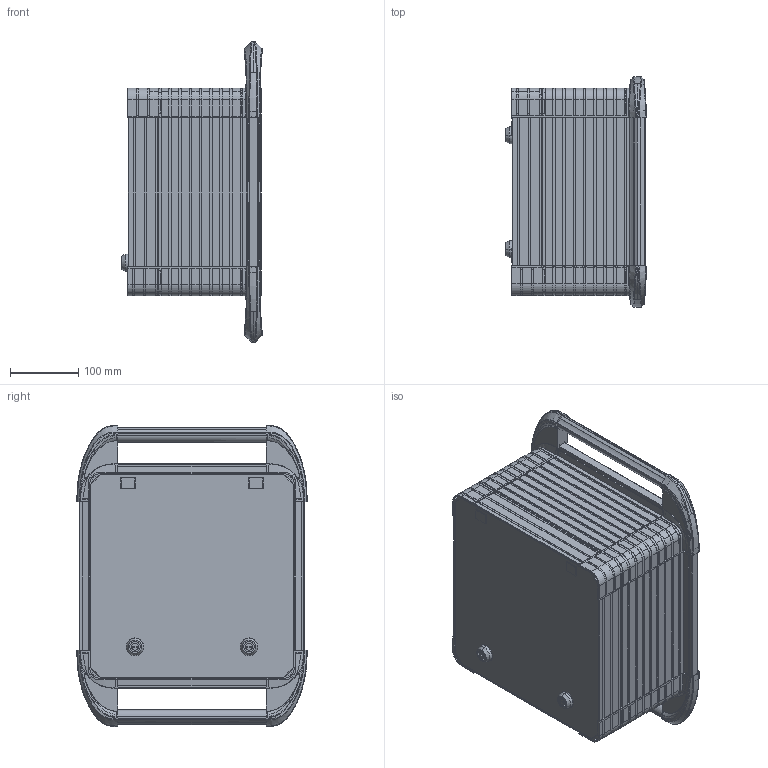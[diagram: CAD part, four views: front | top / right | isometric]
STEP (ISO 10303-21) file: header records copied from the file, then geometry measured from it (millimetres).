
FILE_DESCRIPTION (( 'STEP AP214' ), '1' );
FILE_NAME ('KL-1-180-230-230.step', '2019-11-14T05:20:55', ( 'IT Division' ), ( 'IT' ), 'SwSTEP 2.0', 'SolidWorks 2016', '' );
FILE_SCHEMA (( 'AUTOMOTIVE_DESIGN' ));
Length unit declared in the file: millimetre
Products named in the file (1): KL-1-180-230-230
Bounding box: 206.34 x 337.27 x 441.68 mm (x, y, z)
Volume: 2438772.3 mm3; surface area: 1298387.8 mm2
Topology: 4 solids, 8 shells, 4669 faces, 13196 edges, 8532 vertices
Faces by surface type: plane 2280, cylinder 1122, bspline 1041, cone 174, sphere 44, torus 8
Entity records: 337034 total; most frequent: CARTESIAN_POINT 177735, ORIENTED_EDGE 26312, DIRECTION 17058, EDGE_CURVE 13156, VERTEX_POINT 8512, VECTOR 7304, LINE 7304, AXIS2_PLACEMENT_3D 4877
